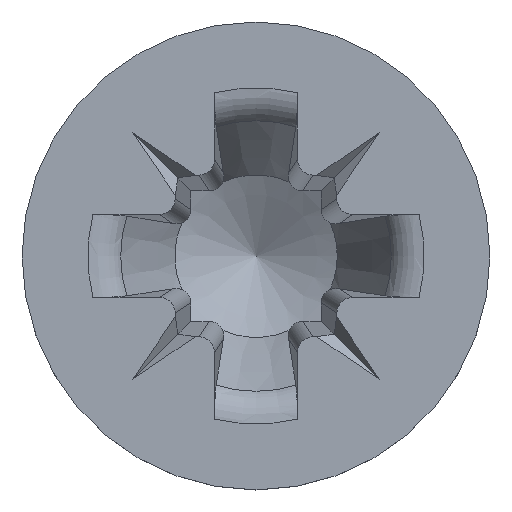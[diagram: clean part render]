
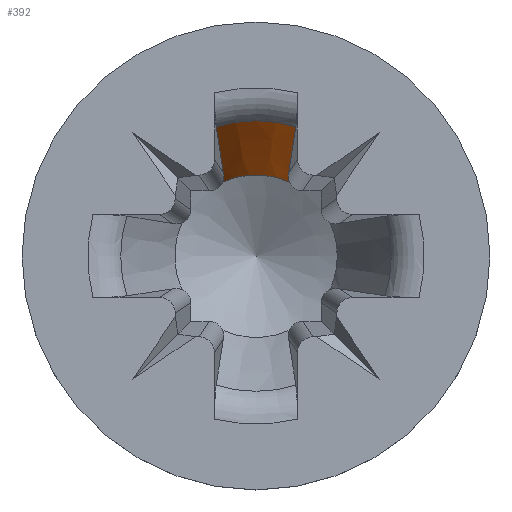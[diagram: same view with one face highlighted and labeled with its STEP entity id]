
A CAD part, top view. The second image highlights one B-rep face of the part: STEP entity #392.
In plain terms, the highlighted conical face has half-angle 26.5 degrees and reference radius 0.66 mm.
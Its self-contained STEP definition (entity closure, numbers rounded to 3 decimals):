
#378=CONICAL_SURFACE('',#1896,0.66,26.5);
#392=ADVANCED_FACE('',(#509),#378,.F.);
#509=FACE_OUTER_BOUND('',#623,.T.);
#623=EDGE_LOOP('',(#849,#850,#851,#852,#853,#854));
#739=CIRCLE('',#1894,1.098);
#740=CIRCLE('',#1895,0.66);
#849=ORIENTED_EDGE('',*,*,#1556,.T.);
#850=ORIENTED_EDGE('',*,*,#1557,.T.);
#851=ORIENTED_EDGE('',*,*,#1558,.T.);
#852=ORIENTED_EDGE('',*,*,#1559,.T.);
#853=ORIENTED_EDGE('',*,*,#1560,.T.);
#854=ORIENTED_EDGE('',*,*,#1561,.T.);
#1382=VERTEX_POINT('',#4630);
#1383=VERTEX_POINT('',#4631);
#1384=VERTEX_POINT('',#4633);
#1385=VERTEX_POINT('',#4638);
#1386=VERTEX_POINT('',#4643);
#1387=VERTEX_POINT('',#4645);
#1556=EDGE_CURVE('',#1382,#1383,#1783,.T.);
#1557=EDGE_CURVE('',#1383,#1384,#739,.T.);
#1558=EDGE_CURVE('',#1384,#1385,#1784,.T.);
#1559=EDGE_CURVE('',#1385,#1386,#1785,.T.);
#1560=EDGE_CURVE('',#1386,#1387,#740,.T.);
#1561=EDGE_CURVE('',#1387,#1382,#1786,.T.);
#1783=B_SPLINE_CURVE_WITH_KNOTS('',3,(#4626,#4627,#4628,#4629),
 .UNSPECIFIED.,.F.,.F.,(4,4),(0.,1.),.UNSPECIFIED.);
#1784=B_SPLINE_CURVE_WITH_KNOTS('',3,(#4634,#4635,#4636,#4637),
 .UNSPECIFIED.,.F.,.F.,(4,4),(0.,1.),.UNSPECIFIED.);
#1785=B_SPLINE_CURVE_WITH_KNOTS('',3,(#4639,#4640,#4641,#4642),
 .UNSPECIFIED.,.F.,.F.,(4,4),(0.,1.),.UNSPECIFIED.);
#1786=B_SPLINE_CURVE_WITH_KNOTS('',3,(#4646,#4647,#4648,#4649),
 .UNSPECIFIED.,.F.,.F.,(4,4),(0.,1.),.UNSPECIFIED.);
#1894=AXIS2_PLACEMENT_3D('',#4632,#2030,#2031);
#1895=AXIS2_PLACEMENT_3D('',#4644,#2032,#2033);
#1896=AXIS2_PLACEMENT_3D('',#4650,#2034,#2035);
#2030=DIRECTION('',(0.,0.,1.));
#2031=DIRECTION('',(1.,0.,0.));
#2032=DIRECTION('',(0.,0.,-1.));
#2033=DIRECTION('',(1.,0.,0.));
#2034=DIRECTION('',(0.,0.,1.));
#2035=DIRECTION('',(1.,0.,0.));
#4626=CARTESIAN_POINT('',(0.265,0.677,0.59));
#4627=CARTESIAN_POINT('',(0.285,0.802,0.837));
#4628=CARTESIAN_POINT('',(0.304,0.926,1.086));
#4629=CARTESIAN_POINT('',(0.323,1.049,1.334));
#4630=CARTESIAN_POINT('',(0.265,0.677,0.59));
#4631=CARTESIAN_POINT('',(0.323,1.049,1.334));
#4632=CARTESIAN_POINT('',(0.,0.,1.334));
#4633=CARTESIAN_POINT('',(-0.323,1.049,1.334));
#4634=CARTESIAN_POINT('',(-0.323,1.049,1.334));
#4635=CARTESIAN_POINT('',(-0.304,0.926,1.086));
#4636=CARTESIAN_POINT('',(-0.285,0.802,0.837));
#4637=CARTESIAN_POINT('',(-0.265,0.677,0.59));
#4638=CARTESIAN_POINT('',(-0.265,0.677,0.59));
#4639=CARTESIAN_POINT('',(-0.265,0.677,0.59));
#4640=CARTESIAN_POINT('',(-0.262,0.654,0.544));
#4641=CARTESIAN_POINT('',(-0.261,0.63,0.498));
#4642=CARTESIAN_POINT('',(-0.269,0.603,0.455));
#4643=CARTESIAN_POINT('',(-0.269,0.603,0.455));
#4644=CARTESIAN_POINT('',(0.,0.,0.455));
#4645=CARTESIAN_POINT('',(0.269,0.603,0.455));
#4646=CARTESIAN_POINT('',(0.269,0.603,0.455));
#4647=CARTESIAN_POINT('',(0.261,0.63,0.498));
#4648=CARTESIAN_POINT('',(0.262,0.654,0.544));
#4649=CARTESIAN_POINT('',(0.265,0.677,0.59));
#4650=CARTESIAN_POINT('',(0.,0.,0.455));
